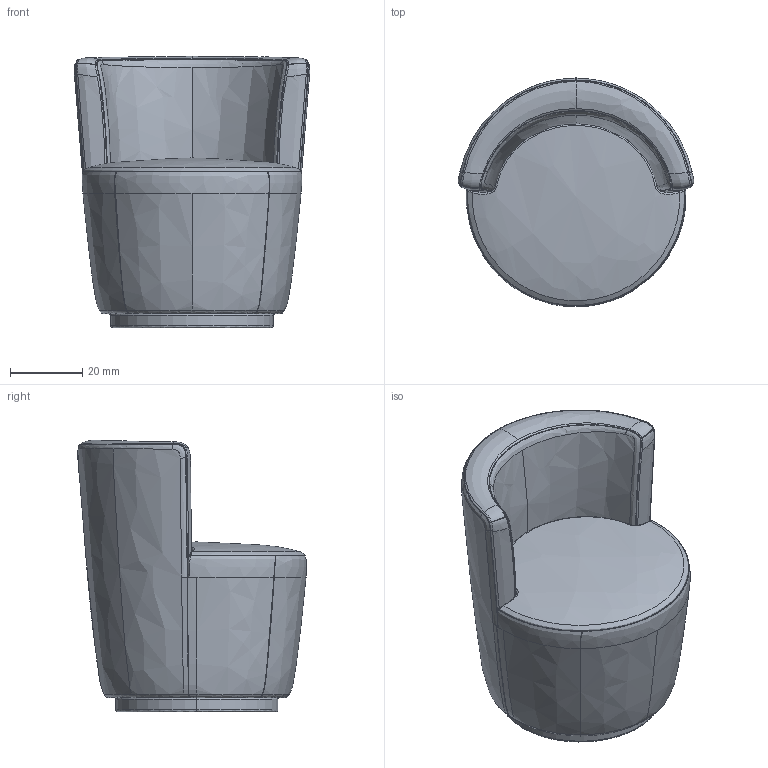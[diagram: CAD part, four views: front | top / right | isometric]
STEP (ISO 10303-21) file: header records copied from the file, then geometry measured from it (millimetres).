
FILE_DESCRIPTION(/* description */ (''),/* implementation_level */ '2;1');
FILE_NAME(/* name */ 'Malia Sessel',/* time_stamp */ '2019-01-31T20:06:13+01:00',/* author */ (''),/* organization */ (''),/* preprocessor_version */ 'ST-DEVELOPER v15',/* originating_system */ '',/* authorisation */ '');
FILE_SCHEMA (('AUTOMOTIVE_DESIGN'));
Length unit declared in the file: millimetre
Products named in the file (1): Document
Bounding box: 65.33 x 63.37 x 75.38 mm (x, y, z)
Volume: 6340.7 mm3; surface area: 22646.9 mm2
Topology: 14 solids, 15 shells, 136 faces, 288 edges, 176 vertices
Faces by surface type: bspline 109, plane 27
Entity records: 32023 total; most frequent: CARTESIAN_POINT 30300, ORIENTED_EDGE 557, EDGE_CURVE 288, VERTEX_POINT 176, ADVANCED_FACE 136, FACE_OUTER_BOUND 136, EDGE_LOOP 136, B_SPLINE_CURVE_WITH_KNOTS 112
